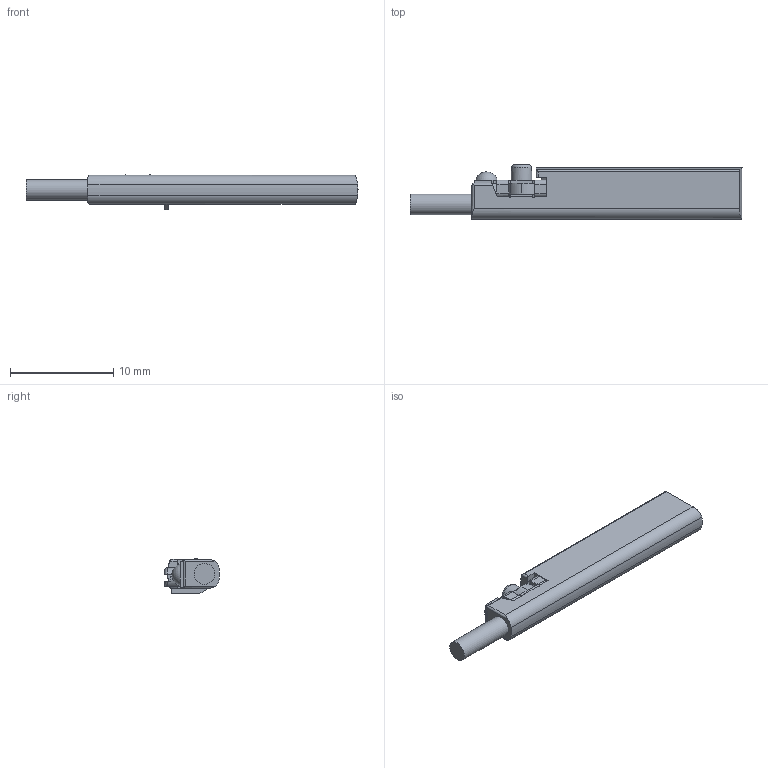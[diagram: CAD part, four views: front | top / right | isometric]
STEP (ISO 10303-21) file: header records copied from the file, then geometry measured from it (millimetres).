
FILE_DESCRIPTION( ( 'STEP AP203' ), ' ' );
FILE_NAME( 'p:/temp/worker_782/3468_1372/app_44_02017110912415117265345192d056f_000000_00_00_000000/format_2/MK5315.stp', '2017-11-09T11:41:52', ( '' ), ( '' ), ' ', 'PARTsolutions', ' ' );
FILE_SCHEMA( ( 'CONFIG_CONTROL_DESIGN' ) );
Length unit declared in the file: millimetre
Products named in the file (1): _MK5315
Bounding box: 32.09 x 5.3 x 3.38 mm (x, y, z)
Volume: 341.2 mm3; surface area: 475.1 mm2
Topology: 1 solids, 2 shells, 151 faces, 431 edges, 281 vertices
Faces by surface type: plane 92, cylinder 56, torus 2, sphere 1
Full cylindrical faces by diameter (mm): 1 x1, 1.6 x1, 2 x1
Entity records: 4983 total; most frequent: CARTESIAN_POINT 946, ORIENTED_EDGE 848, DIRECTION 833, EDGE_CURVE 424, LINE 285, VECTOR 285, VERTEX_POINT 279, AXIS2_PLACEMENT_3D 274
